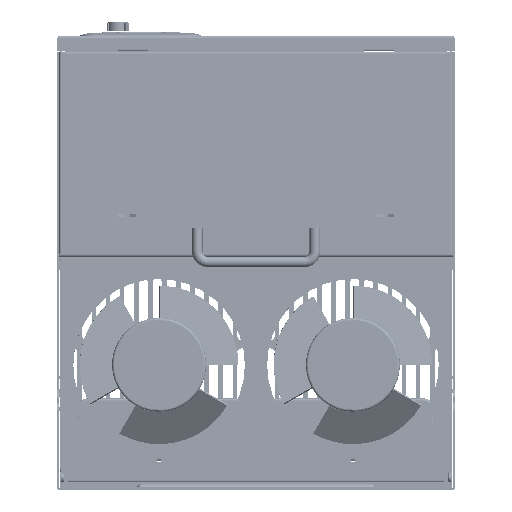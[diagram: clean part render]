
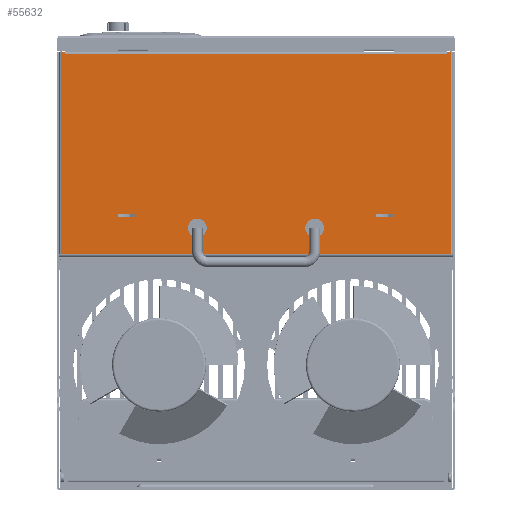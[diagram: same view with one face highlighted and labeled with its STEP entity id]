
A CAD part, left-side view. The second image highlights one B-rep face of the part: STEP entity #55632.
In plain terms, the highlighted planar face has unit normal (-1, 0, 0) as drawn and (0, 0, -1) by its records, which use the part's own axes.
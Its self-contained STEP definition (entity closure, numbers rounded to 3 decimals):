
#52242=DIRECTION('',(-1.,0.,0.));
#52243=VECTOR('',#52242,331.6);
#52244=CARTESIAN_POINT('',(165.8,0.5,-162.3));
#52245=LINE('',#52244,#52243);
#52258=DIRECTION('',(-1.,0.,0.));
#52259=VECTOR('',#52258,3.);
#52260=CARTESIAN_POINT('',(-162.8,172.7,-162.3));
#52261=LINE('',#52260,#52259);
#52262=DIRECTION('',(-1.,0.,0.));
#52263=VECTOR('',#52262,3.);
#52264=CARTESIAN_POINT('',(165.8,172.7,-162.3));
#52265=LINE('',#52264,#52263);
#52266=DIRECTION('',(0.,-1.,0.));
#52267=VECTOR('',#52266,1.5);
#52268=CARTESIAN_POINT('',(162.8,172.7,-162.3));
#52269=LINE('',#52268,#52267);
#52270=DIRECTION('',(-1.,0.,0.));
#52271=VECTOR('',#52270,15.);
#52272=CARTESIAN_POINT('',(117.5,32.,-162.3));
#52273=LINE('',#52272,#52271);
#52274=DIRECTION('',(0.,-1.,0.));
#52275=VECTOR('',#52274,3.);
#52276=CARTESIAN_POINT('',(117.5,35.,-162.3));
#52277=LINE('',#52276,#52275);
#52278=DIRECTION('',(1.,0.,0.));
#52279=VECTOR('',#52278,15.);
#52280=CARTESIAN_POINT('',(-117.5,35.,-162.3));
#52281=LINE('',#52280,#52279);
#52282=DIRECTION('',(0.,-1.,0.));
#52283=VECTOR('',#52282,3.);
#52284=CARTESIAN_POINT('',(-102.5,35.,-162.3));
#52285=LINE('',#52284,#52283);
#52286=CARTESIAN_POINT('',(-50.,23.,-162.3));
#52287=DIRECTION('',(0.,0.,-1.));
#52288=DIRECTION('',(1.,0.,0.));
#52289=AXIS2_PLACEMENT_3D('',#52286,#52287,#52288);
#52291=CARTESIAN_POINT('',(-50.,23.,-162.3));
#52292=DIRECTION('',(0.,0.,-1.));
#52293=DIRECTION('',(-1.,0.,0.));
#52294=AXIS2_PLACEMENT_3D('',#52291,#52292,#52293);
#52296=CARTESIAN_POINT('',(50.,23.,-162.3));
#52297=DIRECTION('',(0.,0.,-1.));
#52298=DIRECTION('',(1.,0.,0.));
#52299=AXIS2_PLACEMENT_3D('',#52296,#52297,#52298);
#52301=CARTESIAN_POINT('',(50.,23.,-162.3));
#52302=DIRECTION('',(0.,0.,-1.));
#52303=DIRECTION('',(-1.,0.,0.));
#52304=AXIS2_PLACEMENT_3D('',#52301,#52302,#52303);
#52310=DIRECTION('',(1.,0.,0.));
#52311=VECTOR('',#52310,325.6);
#52312=CARTESIAN_POINT('',(-162.8,171.2,-162.3));
#52313=LINE('',#52312,#52311);
#52553=DIRECTION('',(0.,-1.,0.));
#52554=VECTOR('',#52553,172.2);
#52555=CARTESIAN_POINT('',(165.8,172.7,-162.3));
#52556=LINE('',#52555,#52554);
#52708=DIRECTION('',(0.,1.,0.));
#52709=VECTOR('',#52708,172.2);
#52710=CARTESIAN_POINT('',(-165.8,0.5,-162.3));
#52711=LINE('',#52710,#52709);
#52797=DIRECTION('',(0.,-1.,0.));
#52798=VECTOR('',#52797,1.5);
#52799=CARTESIAN_POINT('',(-162.8,172.7,-162.3));
#52800=LINE('',#52799,#52798);
#53680=DIRECTION('',(-1.,0.,0.));
#53681=VECTOR('',#53680,15.);
#53682=CARTESIAN_POINT('',(117.5,35.,-162.3));
#53683=LINE('',#53682,#53681);
#53696=DIRECTION('',(0.,-1.,0.));
#53697=VECTOR('',#53696,3.);
#53698=CARTESIAN_POINT('',(102.5,35.,-162.3));
#53699=LINE('',#53698,#53697);
#53840=DIRECTION('',(1.,0.,0.));
#53841=VECTOR('',#53840,15.);
#53842=CARTESIAN_POINT('',(-117.5,32.,-162.3));
#53843=LINE('',#53842,#53841);
#53884=DIRECTION('',(0.,-1.,0.));
#53885=VECTOR('',#53884,3.);
#53886=CARTESIAN_POINT('',(-117.5,35.,-162.3));
#53887=LINE('',#53886,#53885);
#54688=CARTESIAN_POINT('',(165.8,0.5,-162.3));
#54689=CARTESIAN_POINT('',(-165.8,0.5,-162.3));
#54690=VERTEX_POINT('',#54688);
#54691=VERTEX_POINT('',#54689);
#54696=CARTESIAN_POINT('',(-162.8,171.2,-162.3));
#54697=CARTESIAN_POINT('',(162.8,171.2,-162.3));
#54698=VERTEX_POINT('',#54696);
#54699=VERTEX_POINT('',#54697);
#54700=CARTESIAN_POINT('',(-162.8,172.7,-162.3));
#54701=VERTEX_POINT('',#54700);
#54702=CARTESIAN_POINT('',(-165.8,172.7,-162.3));
#54703=VERTEX_POINT('',#54702);
#54704=CARTESIAN_POINT('',(165.8,172.7,-162.3));
#54705=VERTEX_POINT('',#54704);
#54706=CARTESIAN_POINT('',(162.8,172.7,-162.3));
#54707=VERTEX_POINT('',#54706);
#54708=CARTESIAN_POINT('',(117.5,32.,-162.3));
#54709=CARTESIAN_POINT('',(102.5,32.,-162.3));
#54710=VERTEX_POINT('',#54708);
#54711=VERTEX_POINT('',#54709);
#54712=CARTESIAN_POINT('',(102.5,35.,-162.3));
#54713=VERTEX_POINT('',#54712);
#54714=CARTESIAN_POINT('',(117.5,35.,-162.3));
#54715=VERTEX_POINT('',#54714);
#54716=CARTESIAN_POINT('',(-117.5,32.,-162.3));
#54717=CARTESIAN_POINT('',(-102.5,32.,-162.3));
#54718=VERTEX_POINT('',#54716);
#54719=VERTEX_POINT('',#54717);
#54720=CARTESIAN_POINT('',(-117.5,35.,-162.3));
#54721=VERTEX_POINT('',#54720);
#54722=CARTESIAN_POINT('',(-102.5,35.,-162.3));
#54723=VERTEX_POINT('',#54722);
#54724=CARTESIAN_POINT('',(-44.5,23.,-162.3));
#54725=CARTESIAN_POINT('',(-55.5,23.,-162.3));
#54726=VERTEX_POINT('',#54724);
#54727=VERTEX_POINT('',#54725);
#54728=CARTESIAN_POINT('',(55.5,23.,-162.3));
#54729=CARTESIAN_POINT('',(44.5,23.,-162.3));
#54730=VERTEX_POINT('',#54728);
#54731=VERTEX_POINT('',#54729);
#55578=CARTESIAN_POINT('',(-167.5,-1.5,-162.3));
#55579=DIRECTION('',(0.,0.,-1.));
#55580=DIRECTION('',(-1.,0.,0.));
#55581=AXIS2_PLACEMENT_3D('',#55578,#55579,#55580);
#55582=PLANE('',#55581);
#55584=ORIENTED_EDGE('',*,*,#55583,.F.);
#55586=ORIENTED_EDGE('',*,*,#55585,.F.);
#55588=ORIENTED_EDGE('',*,*,#55587,.T.);
#55590=ORIENTED_EDGE('',*,*,#55589,.F.);
#55591=ORIENTED_EDGE('',*,*,#55564,.F.);
#55593=ORIENTED_EDGE('',*,*,#55592,.F.);
#55595=ORIENTED_EDGE('',*,*,#55594,.T.);
#55597=ORIENTED_EDGE('',*,*,#55596,.T.);
#55598=EDGE_LOOP('',(#55584,#55586,#55588,#55590,#55591,#55593,#55595,#55597));
#55599=FACE_OUTER_BOUND('',#55598,.F.);
#55601=ORIENTED_EDGE('',*,*,#55600,.T.);
#55603=ORIENTED_EDGE('',*,*,#55602,.F.);
#55605=ORIENTED_EDGE('',*,*,#55604,.F.);
#55607=ORIENTED_EDGE('',*,*,#55606,.T.);
#55608=EDGE_LOOP('',(#55601,#55603,#55605,#55607));
#55609=FACE_BOUND('',#55608,.F.);
#55611=ORIENTED_EDGE('',*,*,#55610,.F.);
#55613=ORIENTED_EDGE('',*,*,#55612,.F.);
#55615=ORIENTED_EDGE('',*,*,#55614,.T.);
#55617=ORIENTED_EDGE('',*,*,#55616,.T.);
#55618=EDGE_LOOP('',(#55611,#55613,#55615,#55617));
#55619=FACE_BOUND('',#55618,.F.);
#55621=ORIENTED_EDGE('',*,*,#55620,.T.);
#55623=ORIENTED_EDGE('',*,*,#55622,.T.);
#55624=EDGE_LOOP('',(#55621,#55623));
#55625=FACE_BOUND('',#55624,.F.);
#55627=ORIENTED_EDGE('',*,*,#55626,.T.);
#55629=ORIENTED_EDGE('',*,*,#55628,.T.);
#55630=EDGE_LOOP('',(#55627,#55629));
#55631=FACE_BOUND('',#55630,.F.);
#55632=ADVANCED_FACE('',(#55599,#55609,#55619,#55625,#55631),#55582,.T.);
#52290=CIRCLE('',#52289,5.5);
#52295=CIRCLE('',#52294,5.5);
#52300=CIRCLE('',#52299,5.5);
#52305=CIRCLE('',#52304,5.5);
#55564=EDGE_CURVE('',#54690,#54691,#52245,.T.);
#55583=EDGE_CURVE('',#54698,#54699,#52313,.T.);
#55585=EDGE_CURVE('',#54701,#54698,#52800,.T.);
#55587=EDGE_CURVE('',#54701,#54703,#52261,.T.);
#55589=EDGE_CURVE('',#54691,#54703,#52711,.T.);
#55592=EDGE_CURVE('',#54705,#54690,#52556,.T.);
#55594=EDGE_CURVE('',#54705,#54707,#52265,.T.);
#55596=EDGE_CURVE('',#54707,#54699,#52269,.T.);
#55600=EDGE_CURVE('',#54710,#54711,#52273,.T.);
#55602=EDGE_CURVE('',#54713,#54711,#53699,.T.);
#55604=EDGE_CURVE('',#54715,#54713,#53683,.T.);
#55606=EDGE_CURVE('',#54715,#54710,#52277,.T.);
#55610=EDGE_CURVE('',#54718,#54719,#53843,.T.);
#55612=EDGE_CURVE('',#54721,#54718,#53887,.T.);
#55614=EDGE_CURVE('',#54721,#54723,#52281,.T.);
#55616=EDGE_CURVE('',#54723,#54719,#52285,.T.);
#55620=EDGE_CURVE('',#54726,#54727,#52290,.T.);
#55622=EDGE_CURVE('',#54727,#54726,#52295,.T.);
#55626=EDGE_CURVE('',#54730,#54731,#52300,.T.);
#55628=EDGE_CURVE('',#54731,#54730,#52305,.T.);
